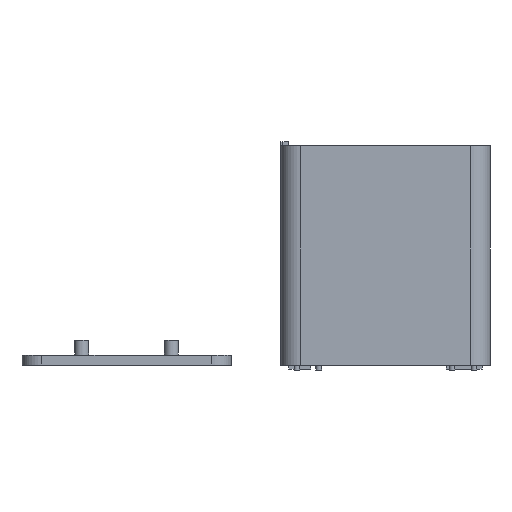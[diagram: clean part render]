
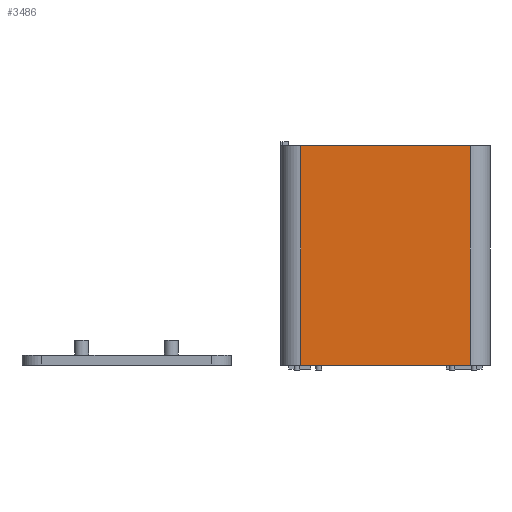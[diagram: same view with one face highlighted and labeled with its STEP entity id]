
A CAD part, left-side view. The second image highlights one B-rep face of the part: STEP entity #3486.
In plain terms, the highlighted planar face has unit normal (-1, 0, 0).
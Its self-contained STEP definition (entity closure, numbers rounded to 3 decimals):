
#186=PLANE('',#3827);
#382=FACE_OUTER_BOUND('',#653,.T.);
#653=EDGE_LOOP('',(#2928,#2929,#2930,#2931));
#957=LINE('',#5676,#1278);
#958=LINE('',#5679,#1279);
#959=LINE('',#5681,#1280);
#960=LINE('',#5682,#1281);
#1278=VECTOR('',#4653,10.);
#1279=VECTOR('',#4656,10.);
#1280=VECTOR('',#4657,10.);
#1281=VECTOR('',#4658,10.);
#1749=VERTEX_POINT('',#5672);
#1750=VERTEX_POINT('',#5674);
#1751=VERTEX_POINT('',#5678);
#1752=VERTEX_POINT('',#5680);
#2167=EDGE_CURVE('',#1749,#1750,#957,.T.);
#2168=EDGE_CURVE('',#1751,#1749,#958,.T.);
#2169=EDGE_CURVE('',#1752,#1750,#959,.T.);
#2170=EDGE_CURVE('',#1751,#1752,#960,.T.);
#2928=ORIENTED_EDGE('',*,*,#2168,.T.);
#2929=ORIENTED_EDGE('',*,*,#2167,.T.);
#2930=ORIENTED_EDGE('',*,*,#2169,.F.);
#2931=ORIENTED_EDGE('',*,*,#2170,.F.);
#3486=ADVANCED_FACE('',(#382),#186,.T.);
#3827=AXIS2_PLACEMENT_3D('',#5677,#4654,#4655);
#4653=DIRECTION('',(0.,0.,1.));
#4654=DIRECTION('center_axis',(-1.,0.,0.));
#4655=DIRECTION('ref_axis',(0.,-1.,0.));
#4656=DIRECTION('',(0.,-1.,0.));
#4657=DIRECTION('',(0.,-1.,0.));
#4658=DIRECTION('',(0.,0.,1.));
#5672=CARTESIAN_POINT('',(0.,-370.,0.));
#5674=CARTESIAN_POINT('',(0.,-370.,110.));
#5676=CARTESIAN_POINT('',(0.,-370.,0.));
#5677=CARTESIAN_POINT('Origin',(0.,-285.,0.));
#5678=CARTESIAN_POINT('',(0.,-285.,0.));
#5679=CARTESIAN_POINT('',(0.,-285.,0.));
#5680=CARTESIAN_POINT('',(0.,-285.,110.));
#5681=CARTESIAN_POINT('',(0.,-285.,110.));
#5682=CARTESIAN_POINT('',(0.,-285.,0.));
